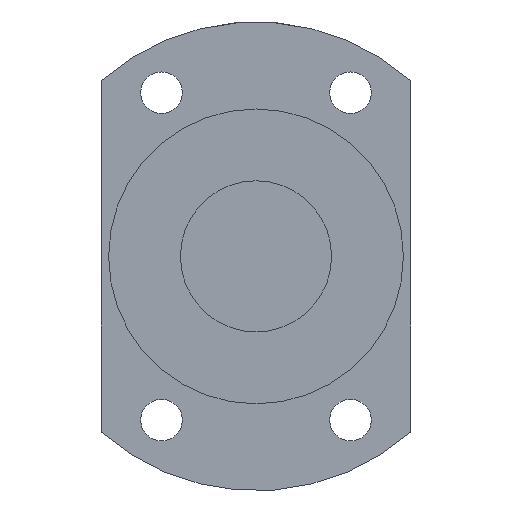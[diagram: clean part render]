
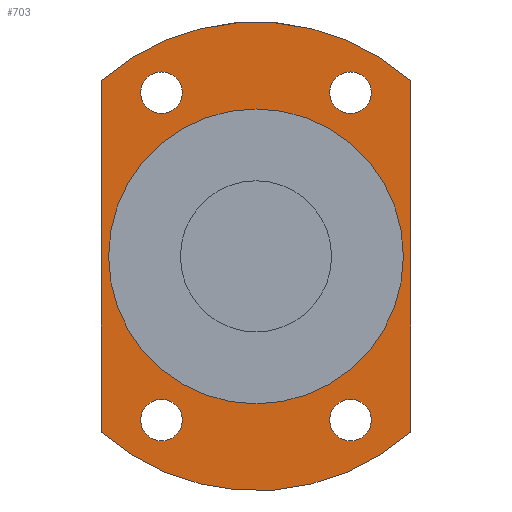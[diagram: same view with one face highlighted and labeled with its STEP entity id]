
A CAD part, left-side view. The second image highlights one B-rep face of the part: STEP entity #703.
In plain terms, the highlighted planar face has unit normal (-1, 0, 0).
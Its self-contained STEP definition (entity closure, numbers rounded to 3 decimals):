
#396=CARTESIAN_POINT('',(13.,-12.5,-18.901));
#397=VERTEX_POINT('',#396);
#398=CARTESIAN_POINT('',(13.,-12.5,-21.651));
#399=DIRECTION('',(1.0,0.0,0.0));
#400=DIRECTION('',(0.0,0.0,1.0));
#401=AXIS2_PLACEMENT_3D('',#398,#399,#400);
#402=CIRCLE('',#401,2.75);
#403=EDGE_CURVE('',#397,#397,#402,.T.);
#445=CARTESIAN_POINT('',(13.,12.5,-18.901));
#446=VERTEX_POINT('',#445);
#447=CARTESIAN_POINT('',(13.,12.5,-21.651));
#448=DIRECTION('',(1.0,0.0,0.0));
#449=DIRECTION('',(0.0,0.0,1.0));
#450=AXIS2_PLACEMENT_3D('',#447,#448,#449);
#451=CIRCLE('',#450,2.75);
#452=EDGE_CURVE('',#446,#446,#451,.T.);
#494=CARTESIAN_POINT('',(13.,12.5,24.401));
#495=VERTEX_POINT('',#494);
#496=CARTESIAN_POINT('',(13.,12.5,21.651));
#497=DIRECTION('',(1.0,0.0,0.0));
#498=DIRECTION('',(0.0,0.0,1.0));
#499=AXIS2_PLACEMENT_3D('',#496,#497,#498);
#500=CIRCLE('',#499,2.75);
#501=EDGE_CURVE('',#495,#495,#500,.T.);
#543=CARTESIAN_POINT('',(13.,-12.5,24.401));
#544=VERTEX_POINT('',#543);
#545=CARTESIAN_POINT('',(13.,-12.5,21.651));
#546=DIRECTION('',(1.0,0.0,0.0));
#547=DIRECTION('',(0.0,0.0,1.0));
#548=AXIS2_PLACEMENT_3D('',#545,#546,#547);
#549=CIRCLE('',#548,2.75);
#550=EDGE_CURVE('',#544,#544,#549,.T.);
#570=CARTESIAN_POINT('',(13.,-20.5,23.254));
#571=VERTEX_POINT('',#570);
#578=CARTESIAN_POINT('',(13.,-20.5,-23.254));
#579=VERTEX_POINT('',#578);
#580=CARTESIAN_POINT('',(13.,-20.5,-23.254));
#581=DIRECTION('',(0.0,0.0,1.0));
#582=VECTOR('',#581,46.508);
#583=LINE('',#580,#582);
#584=EDGE_CURVE('',#579,#571,#583,.T.);
#610=CARTESIAN_POINT('',(13.,20.5,-23.254));
#611=VERTEX_POINT('',#610);
#618=CARTESIAN_POINT('',(13.,20.5,23.254));
#619=VERTEX_POINT('',#618);
#620=CARTESIAN_POINT('',(13.,20.5,23.254));
#621=DIRECTION('',(0.0,0.0,-1.0));
#622=VECTOR('',#621,46.508);
#623=LINE('',#620,#622);
#624=EDGE_CURVE('',#619,#611,#623,.T.);
#649=CARTESIAN_POINT('',(13.,0.0,0.));
#650=DIRECTION('',(-1.0,0.0,0.0));
#651=DIRECTION('',(0.0,0.0,1.0));
#652=AXIS2_PLACEMENT_3D('',#649,#650,#651);
#653=CIRCLE('',#652,31.);
#654=EDGE_CURVE('',#571,#619,#653,.T.);
#663=CARTESIAN_POINT('',(13.,0.0,25.25));
#664=DIRECTION('',(-1.0,0.0,0.0));
#665=DIRECTION('',(0.0,0.0,1.0));
#666=AXIS2_PLACEMENT_3D('',#663,#664,#665);
#667=PLANE('',#666);
#668=ORIENTED_EDGE('',*,*,#584,.T.);
#669=ORIENTED_EDGE('',*,*,#654,.T.);
#670=ORIENTED_EDGE('',*,*,#624,.T.);
#671=CARTESIAN_POINT('',(13.,0.0,0.));
#672=DIRECTION('',(-1.0,0.0,0.0));
#673=DIRECTION('',(0.0,0.0,1.0));
#674=AXIS2_PLACEMENT_3D('',#671,#672,#673);
#675=CIRCLE('',#674,31.);
#676=EDGE_CURVE('',#611,#579,#675,.T.);
#677=ORIENTED_EDGE('',*,*,#676,.T.);
#678=EDGE_LOOP('',(#668,#669,#670,#677));
#679=FACE_OUTER_BOUND('',#678,.T.);
#680=ORIENTED_EDGE('',*,*,#403,.T.);
#681=EDGE_LOOP('',(#680));
#682=FACE_BOUND('',#681,.T.);
#683=ORIENTED_EDGE('',*,*,#452,.T.);
#684=EDGE_LOOP('',(#683));
#685=FACE_BOUND('',#684,.T.);
#686=ORIENTED_EDGE('',*,*,#501,.T.);
#687=EDGE_LOOP('',(#686));
#688=FACE_BOUND('',#687,.T.);
#689=ORIENTED_EDGE('',*,*,#550,.T.);
#690=EDGE_LOOP('',(#689));
#691=FACE_BOUND('',#690,.T.);
#692=CARTESIAN_POINT('',(13.,0.0,19.5));
#693=VERTEX_POINT('',#692);
#694=CARTESIAN_POINT('',(13.,0.0,0.));
#695=DIRECTION('',(-1.0,0.0,0.0));
#696=DIRECTION('',(0.0,0.0,1.0));
#697=AXIS2_PLACEMENT_3D('',#694,#695,#696);
#698=CIRCLE('',#697,19.5);
#699=EDGE_CURVE('',#693,#693,#698,.T.);
#700=ORIENTED_EDGE('',*,*,#699,.F.);
#701=EDGE_LOOP('',(#700));
#702=FACE_BOUND('',#701,.T.);
#703=ADVANCED_FACE('',(#679,#682,#685,#688,#691,#702),#667,.T.);
